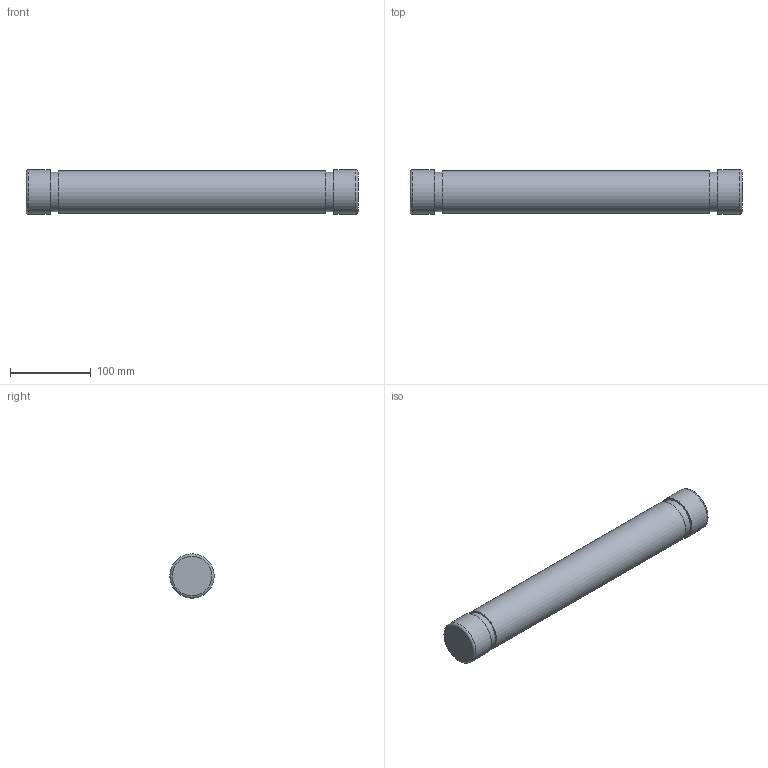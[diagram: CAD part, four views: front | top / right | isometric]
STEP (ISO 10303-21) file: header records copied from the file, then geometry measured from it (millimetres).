
FILE_DESCRIPTION (( 'STEP AP214' ), '1' );
FILE_NAME ('眈襝鍙 玾-1.1-10.STEP', '2023-03-03T10:40:37', ( '' ), ( '' ), 'SwSTEP 2.0', 'SolidWorks 2018', '' );
FILE_SCHEMA (( 'AUTOMOTIVE_DESIGN' ));
Length unit declared in the file: millimetre
Products named in the file (1): 眈襝鍙 玾-1.1-10
Bounding box: 412 x 55 x 55 mm (x, y, z)
Volume: 527221.2 mm3; surface area: 120551.8 mm2
Topology: 1 solids, 2 shells, 16 faces, 23 edges, 15 vertices
Faces by surface type: plane 8, cylinder 6, torus 2
Full cylindrical faces by diameter (mm): 35 x1, 49 x2, 53 x1, 55 x2
Entity records: 336 total; most frequent: DIRECTION 62, CARTESIAN_POINT 45, AXIS2_PLACEMENT_3D 31, ORIENTED_EDGE 28, EDGE_LOOP 28, FACE_OUTER_BOUND 24, ADVANCED_FACE 16, CIRCLE 14
